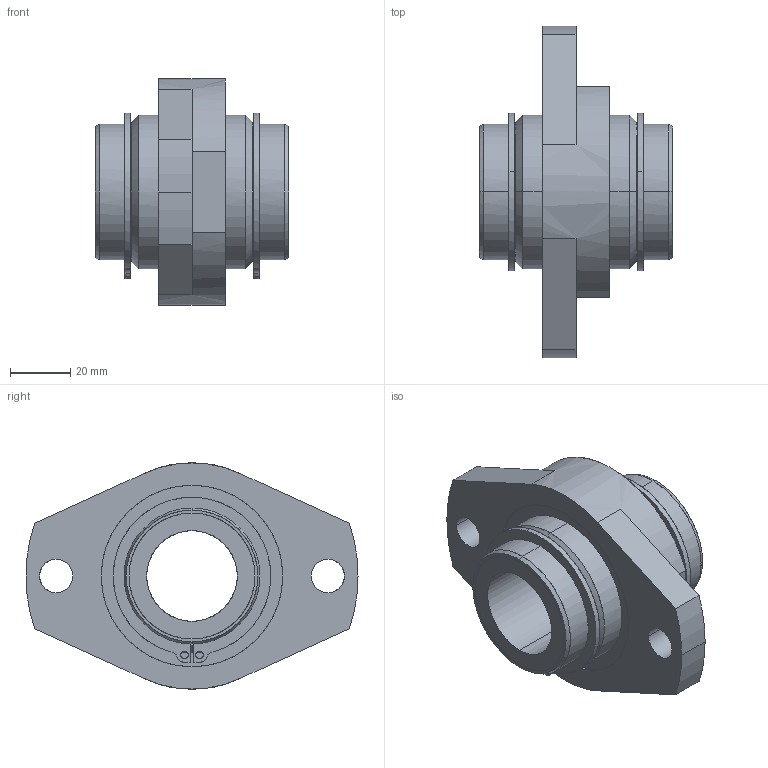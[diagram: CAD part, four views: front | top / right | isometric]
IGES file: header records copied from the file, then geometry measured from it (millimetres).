
Global section: file name: No Iges File Name specified; native system: AutoDesk Inventor R10; preprocessor: AutoDesk Inventor Iges Exporter R10; author: No Author specified; organization: No Organization specified; date: 20101214.161524; units: millimetre
Bounding box: 64 x 110 x 75 mm (x, y, z)
Surface area: 34458.4 mm2 (no closed solid volume)
Topology: 0 solids, 0 shells, 108 faces, 744 edges, 740 vertices
Faces by surface type: bspline 108
